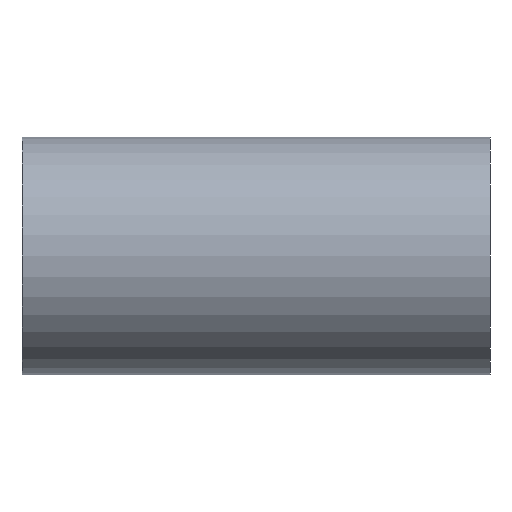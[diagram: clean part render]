
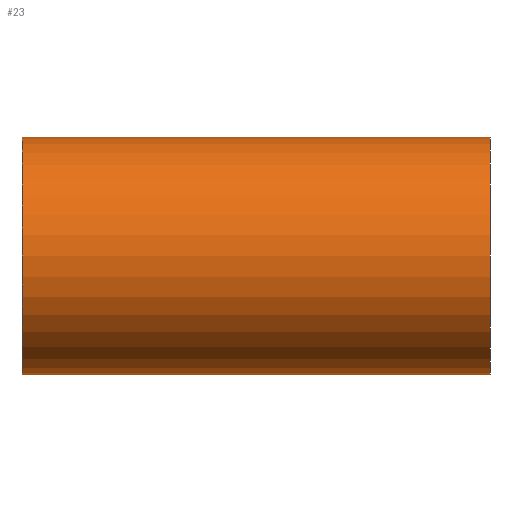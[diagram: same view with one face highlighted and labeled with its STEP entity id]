
A CAD part, left-side view. The second image highlights one B-rep face of the part: STEP entity #23.
In plain terms, the highlighted cylindrical face has radius 3.55 mm (diameter 7.1 mm), a partial arc.
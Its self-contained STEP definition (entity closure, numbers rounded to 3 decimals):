
#23=ADVANCED_FACE('',(#29),#67,.T.);
#29=FACE_OUTER_BOUND('',#35,.F.);
#35=EDGE_LOOP('',(#46,#47,#48,#49));
#46=ORIENTED_EDGE('',*,*,#80,.T.);
#47=ORIENTED_EDGE('',*,*,#85,.F.);
#48=ORIENTED_EDGE('',*,*,#81,.T.);
#49=ORIENTED_EDGE('',*,*,#84,.T.);
#67=CYLINDRICAL_SURFACE('',#200,3.55);
#72=LINE('',#263,#76);
#73=LINE('',#264,#77);
#76=VECTOR('',#221,14.);
#77=VECTOR('',#222,14.);
#80=EDGE_CURVE('',#101,#100,#92,.T.);
#81=EDGE_CURVE('',#99,#98,#93,.T.);
#84=EDGE_CURVE('',#98,#101,#72,.T.);
#85=EDGE_CURVE('',#99,#100,#73,.T.);
#92=CIRCLE('',#193,3.55);
#93=CIRCLE('',#194,3.55);
#98=VERTEX_POINT('',#249);
#99=VERTEX_POINT('',#250);
#100=VERTEX_POINT('',#251);
#101=VERTEX_POINT('',#252);
#193=AXIS2_PLACEMENT_3D('',#259,#215,#216);
#194=AXIS2_PLACEMENT_3D('',#260,#217,#218);
#200=AXIS2_PLACEMENT_3D('',#270,#233,#234);
#215=DIRECTION('',(0.,-1.,0.));
#216=DIRECTION('',(0.,0.,1.));
#217=DIRECTION('',(0.,1.,0.));
#218=DIRECTION('',(0.,0.,-1.));
#221=DIRECTION('',(0.,-1.,0.));
#222=DIRECTION('',(0.,-1.,0.));
#233=DIRECTION('',(0.,-1.,0.));
#234=DIRECTION('',(0.,0.,1.));
#249=CARTESIAN_POINT('',(921.271,-25.725,821.807));
#250=CARTESIAN_POINT('',(921.271,-25.725,814.707));
#251=CARTESIAN_POINT('',(921.271,-39.725,814.707));
#252=CARTESIAN_POINT('',(921.271,-39.725,821.807));
#259=CARTESIAN_POINT('',(921.271,-39.725,818.257));
#260=CARTESIAN_POINT('',(921.271,-25.725,818.257));
#263=CARTESIAN_POINT('',(921.271,-25.725,821.807));
#264=CARTESIAN_POINT('',(921.271,-25.725,814.707));
#270=CARTESIAN_POINT('',(921.271,-25.725,818.257));
